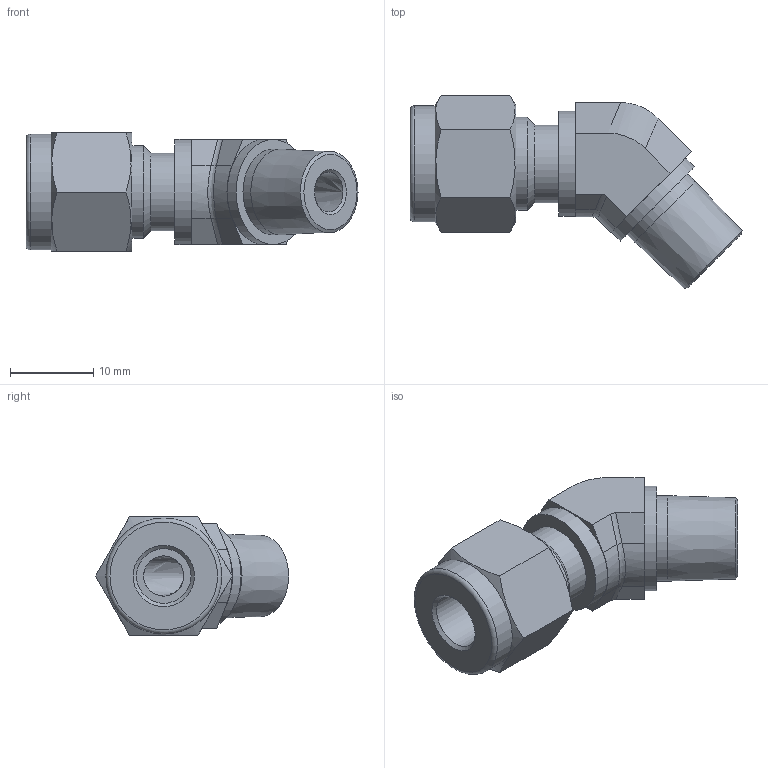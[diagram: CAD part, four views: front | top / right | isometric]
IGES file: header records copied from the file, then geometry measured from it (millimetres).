
Global section: file name: No Iges File Name specified; native system: Autodesk Inventor 2012; preprocessor: AutoDesk Inventor Iges Exporter R2012; author: 硅己绕,, ; organization: 11; date: 20150603.091755; units: millimetre
Bounding box: 39.81 x 23.17 x 14.2 mm (x, y, z)
Volume: 4165.6 mm3; surface area: 2755 mm2
Topology: 1 solids, 1 shells, 49 faces, 106 edges, 66 vertices
Faces by surface type: plane 25, cylinder 10, revolution 7, cone 5, bspline 1, torus 1
Full cylindrical faces by diameter (mm): 9.3 x1, 10.28 x1, 11.112 x1, 12.6 x1, 12.605 x1, 13.9 x1
